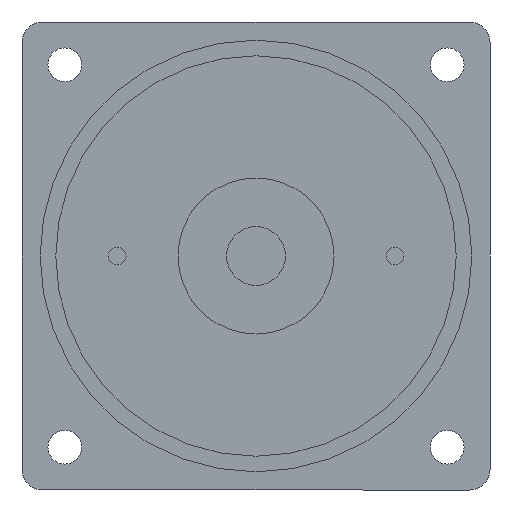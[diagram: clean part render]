
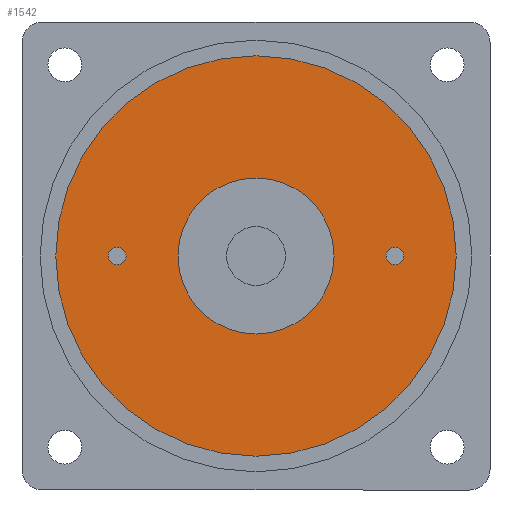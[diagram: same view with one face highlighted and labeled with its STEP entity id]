
A CAD part, front view. The second image highlights one B-rep face of the part: STEP entity #1542.
In plain terms, the highlighted planar face has unit normal (0, -1, 0).
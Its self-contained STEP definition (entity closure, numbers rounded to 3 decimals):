
#242=CARTESIAN_POINT('',(28.4,-1.3,0.));
#243=VERTEX_POINT('',#242);
#244=CARTESIAN_POINT('',(26.7,-1.3,0.0));
#245=DIRECTION('',(0.0,1.0,0.0));
#246=DIRECTION('',(-1.0,0.0,0.0));
#247=AXIS2_PLACEMENT_3D('',#244,#245,#246);
#248=CIRCLE('',#247,1.7);
#249=EDGE_CURVE('',#243,#243,#248,.T.);
#279=CARTESIAN_POINT('',(-25.0,-1.3,0.));
#280=VERTEX_POINT('',#279);
#281=CARTESIAN_POINT('',(-26.7,-1.3,0.0));
#282=DIRECTION('',(0.0,1.0,0.0));
#283=DIRECTION('',(-1.0,0.0,0.0));
#284=AXIS2_PLACEMENT_3D('',#281,#282,#283);
#285=CIRCLE('',#284,1.7);
#286=EDGE_CURVE('',#280,#280,#285,.T.);
#1473=CARTESIAN_POINT('',(15.0,-1.3,0.));
#1474=VERTEX_POINT('',#1473);
#1475=CARTESIAN_POINT('',(0.0,-1.3,0.0));
#1476=DIRECTION('',(0.0,1.0,0.0));
#1477=DIRECTION('',(-1.0,0.0,0.0));
#1478=AXIS2_PLACEMENT_3D('',#1475,#1476,#1477);
#1479=CIRCLE('',#1478,15.0);
#1480=EDGE_CURVE('',#1474,#1474,#1479,.T.);
#1502=CARTESIAN_POINT('',(38.5,-1.3,0.));
#1503=VERTEX_POINT('',#1502);
#1504=CARTESIAN_POINT('',(0.0,-1.3,0.0));
#1505=DIRECTION('',(0.0,-1.0,0.0));
#1506=DIRECTION('',(-1.0,0.0,0.0));
#1507=AXIS2_PLACEMENT_3D('',#1504,#1505,#1506);
#1508=CIRCLE('',#1507,38.5);
#1509=EDGE_CURVE('',#1503,#1503,#1508,.T.);
#1525=CARTESIAN_POINT('',(0.0,-1.3,0.0));
#1526=DIRECTION('',(0.0,1.0,0.0));
#1527=DIRECTION('',(0.0,0.0,1.0));
#1528=AXIS2_PLACEMENT_3D('',#1525,#1526,#1527);
#1529=PLANE('',#1528);
#1530=ORIENTED_EDGE('',*,*,#1509,.T.);
#1531=EDGE_LOOP('',(#1530));
#1532=FACE_OUTER_BOUND('',#1531,.T.);
#1533=ORIENTED_EDGE('',*,*,#249,.T.);
#1534=EDGE_LOOP('',(#1533));
#1535=FACE_BOUND('',#1534,.T.);
#1536=ORIENTED_EDGE('',*,*,#286,.T.);
#1537=EDGE_LOOP('',(#1536));
#1538=FACE_BOUND('',#1537,.T.);
#1539=ORIENTED_EDGE('',*,*,#1480,.T.);
#1540=EDGE_LOOP('',(#1539));
#1541=FACE_BOUND('',#1540,.T.);
#1542=ADVANCED_FACE('',(#1532,#1535,#1538,#1541),#1529,.F.);
